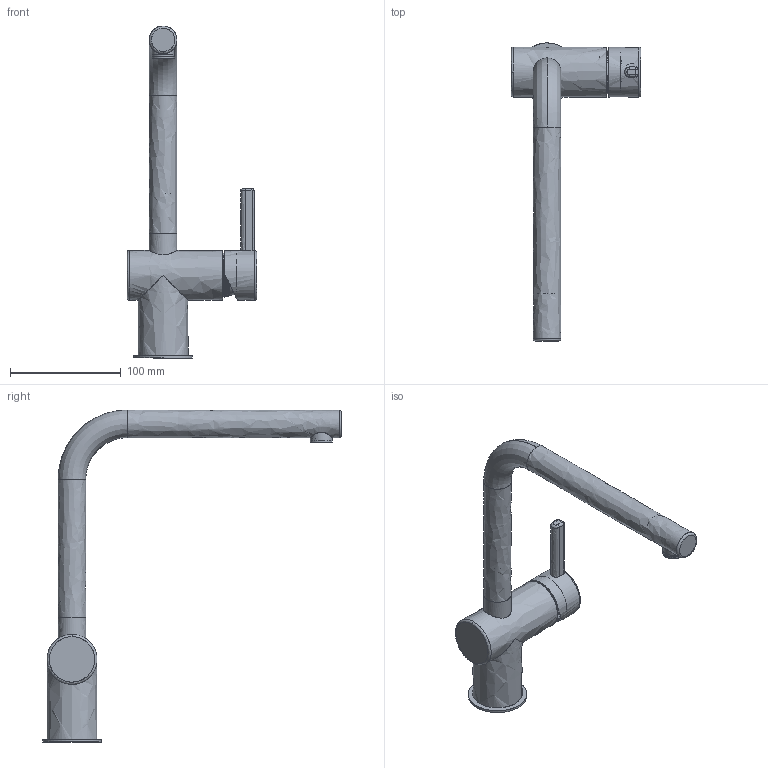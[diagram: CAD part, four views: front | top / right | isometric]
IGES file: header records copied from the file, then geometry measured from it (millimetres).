
Global section: file name: F:\_CONVERSIONE_CAD_2024_2025\03_3D kits new\08_Taps\Atlas Neo\3D001_Taps_Atlas-Neo_Swivel\3D001_Taps_Atlas-Neo_Swivel.igs; native system: Rhinoceros ( Jan  9 2024 ); preprocessor: Trout Lake IGES 012 Jan  9 2024; date: 240130.112441; units: millimetre
Bounding box: 117.13 x 269.5 x 299.5 mm (x, y, z)
Surface area: 142638.1 mm2 (no closed solid volume)
Topology: 0 solids, 0 shells, 824 faces, 5168 edges, 5066 vertices
Faces by surface type: bspline 824
